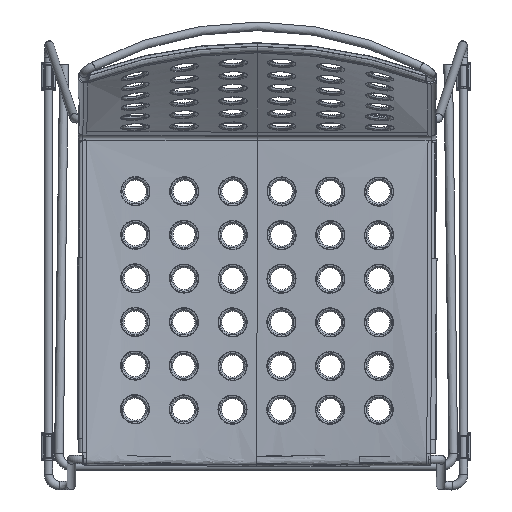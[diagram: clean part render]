
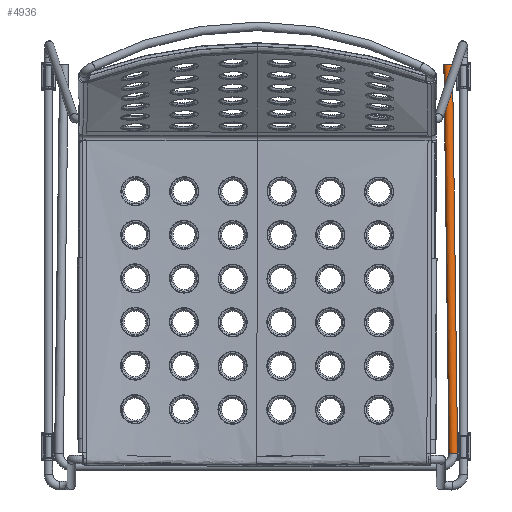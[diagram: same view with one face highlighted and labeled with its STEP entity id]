
A CAD part, top view. The second image highlights one B-rep face of the part: STEP entity #4936.
In plain terms, the highlighted cylindrical face has radius 5.5 mm (diameter 11 mm), a full revolution.
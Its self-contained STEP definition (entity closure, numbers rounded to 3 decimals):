
#4936=ADVANCED_FACE('',(#13732,#13733),#13734,.T.);
#13732=FACE_OUTER_BOUND('',#36511,.T.);
#13733=FACE_OUTER_BOUND('',#36512,.T.);
#13734=CYLINDRICAL_SURFACE('',#36513,5.5);
#36511=EDGE_LOOP('',(#69768));
#36512=EDGE_LOOP('',(#69769));
#36513=AXIS2_PLACEMENT_3D('',#69770,#69771,#69772);
#69768=ORIENTED_EDGE('',*,*,#79014,.F.);
#69769=ORIENTED_EDGE('',*,*,#79015,.T.);
#69770=CARTESIAN_POINT('',(470.644,-18.443,-462.717));
#69771=DIRECTION('',(-0.013,0.998,-0.053));
#69772=DIRECTION('',(-1.,-0.013,0.001));
#79014=EDGE_CURVE('',#94370,#94370,#94371,.T.);
#79015=EDGE_CURVE('',#94372,#94372,#94373,.T.);
#94370=VERTEX_POINT('',#145834);
#94371=CIRCLE('',#145835,5.5);
#94372=VERTEX_POINT('',#145836);
#94373=CIRCLE('',#145837,5.5);
#145834=CARTESIAN_POINT('',(476.143,-18.371,-462.724));
#145835=AXIS2_PLACEMENT_3D('',#155577,#155578,#155579);
#145836=CARTESIAN_POINT('',(469.642,476.724,-489.1));
#145837=AXIS2_PLACEMENT_3D('',#155580,#155581,#155582);
#155577=CARTESIAN_POINT('',(470.644,-18.443,-462.717));
#155578=DIRECTION('',(0.013,-0.998,0.053));
#155579=DIRECTION('',(1.,0.013,-0.001));
#155580=CARTESIAN_POINT('',(464.143,476.652,-489.093));
#155581=DIRECTION('',(0.013,-0.998,0.053));
#155582=DIRECTION('',(1.,0.013,-0.001));
